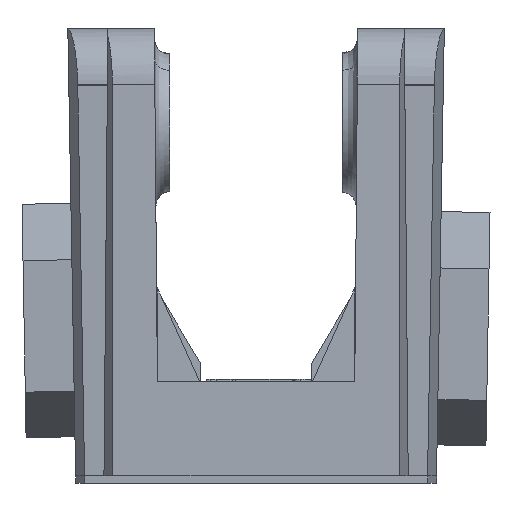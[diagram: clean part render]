
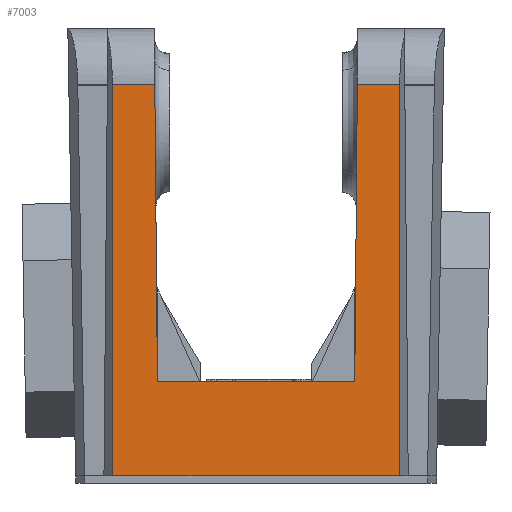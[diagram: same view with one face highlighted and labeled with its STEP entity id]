
A CAD part, left-side view. The second image highlights one B-rep face of the part: STEP entity #7003.
In plain terms, the highlighted planar face has unit normal (-1, 0, 0.009).
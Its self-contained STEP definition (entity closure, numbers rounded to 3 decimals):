
#6169=CARTESIAN_POINT('',(-35.219,17.09,5.16));
#6170=VERTEX_POINT('',#6169);
#6177=CARTESIAN_POINT('',(-35.219,6.59,5.16));
#6178=VERTEX_POINT('',#6177);
#6179=CARTESIAN_POINT('',(-35.219,6.59,5.16));
#6180=DIRECTION('',(-0.,1.,-0.));
#6181=VECTOR('',#6180,10.5);
#6182=LINE('',#6179,#6181);
#6183=EDGE_CURVE('',#6178,#6170,#6182,.T.);
#6311=CARTESIAN_POINT('',(-35.263,4.224,0.16));
#6312=VERTEX_POINT('',#6311);
#6319=CARTESIAN_POINT('',(-35.263,19.456,0.16));
#6320=VERTEX_POINT('',#6319);
#6321=CARTESIAN_POINT('',(-35.263,19.456,0.16));
#6322=DIRECTION('',(0.,-1.,0.));
#6323=VECTOR('',#6322,15.232);
#6324=LINE('',#6321,#6323);
#6325=EDGE_CURVE('',#6320,#6312,#6324,.T.);
#6611=CARTESIAN_POINT('',(-35.081,6.452,20.986));
#6612=VERTEX_POINT('',#6611);
#6613=CARTESIAN_POINT('',(-35.081,6.452,20.986));
#6614=DIRECTION('',(-0.009,0.009,-1.));
#6615=VECTOR('',#6614,15.827);
#6616=LINE('',#6613,#6615);
#6617=EDGE_CURVE('',#6612,#6178,#6616,.T.);
#6901=CARTESIAN_POINT('',(-35.081,17.228,20.986));
#6902=VERTEX_POINT('',#6901);
#6910=CARTESIAN_POINT('',(-35.219,17.09,5.16));
#6911=DIRECTION('',(0.009,0.009,1.));
#6912=VECTOR('',#6911,15.827);
#6913=LINE('',#6910,#6912);
#6914=EDGE_CURVE('',#6170,#6902,#6913,.T.);
#6964=CARTESIAN_POINT('',(-35.263,20.09,0.159));
#6965=DIRECTION('',(-1.,0.,0.009));
#6966=DIRECTION('',(0.009,0.,1.));
#6967=AXIS2_PLACEMENT_3D('',#6964,#6965,#6966);
#6968=PLANE('',#6967);
#6969=ORIENTED_EDGE('',*,*,#6325,.T.);
#6970=CARTESIAN_POINT('',(-35.081,4.194,20.986));
#6971=VERTEX_POINT('',#6970);
#6972=CARTESIAN_POINT('',(-35.263,4.224,0.16));
#6973=DIRECTION('',(0.009,-0.001,1.));
#6974=VECTOR('',#6973,20.827);
#6975=LINE('',#6972,#6974);
#6976=EDGE_CURVE('',#6312,#6971,#6975,.T.);
#6977=ORIENTED_EDGE('',*,*,#6976,.T.);
#6978=CARTESIAN_POINT('',(-35.081,4.194,20.986));
#6979=DIRECTION('',(-0.,1.,-0.));
#6980=VECTOR('',#6979,2.258);
#6981=LINE('',#6978,#6980);
#6982=EDGE_CURVE('',#6971,#6612,#6981,.T.);
#6983=ORIENTED_EDGE('',*,*,#6982,.T.);
#6984=ORIENTED_EDGE('',*,*,#6617,.T.);
#6985=ORIENTED_EDGE('',*,*,#6183,.T.);
#6986=ORIENTED_EDGE('',*,*,#6914,.T.);
#6987=CARTESIAN_POINT('',(-35.081,19.486,20.986));
#6988=VERTEX_POINT('',#6987);
#6989=CARTESIAN_POINT('',(-35.081,17.228,20.986));
#6990=DIRECTION('',(-0.,1.,-0.));
#6991=VECTOR('',#6990,2.258);
#6992=LINE('',#6989,#6991);
#6993=EDGE_CURVE('',#6902,#6988,#6992,.T.);
#6994=ORIENTED_EDGE('',*,*,#6993,.T.);
#6995=CARTESIAN_POINT('',(-35.081,19.486,20.986));
#6996=DIRECTION('',(-0.009,-0.001,-1.));
#6997=VECTOR('',#6996,20.827);
#6998=LINE('',#6995,#6997);
#6999=EDGE_CURVE('',#6988,#6320,#6998,.T.);
#7000=ORIENTED_EDGE('',*,*,#6999,.T.);
#7001=EDGE_LOOP('',(#6969,#6977,#6983,#6984,#6985,#6986,#6994,#7000));
#7002=FACE_BOUND('',#7001,.T.);
#7003=ADVANCED_FACE('',(#7002),#6968,.T.);
